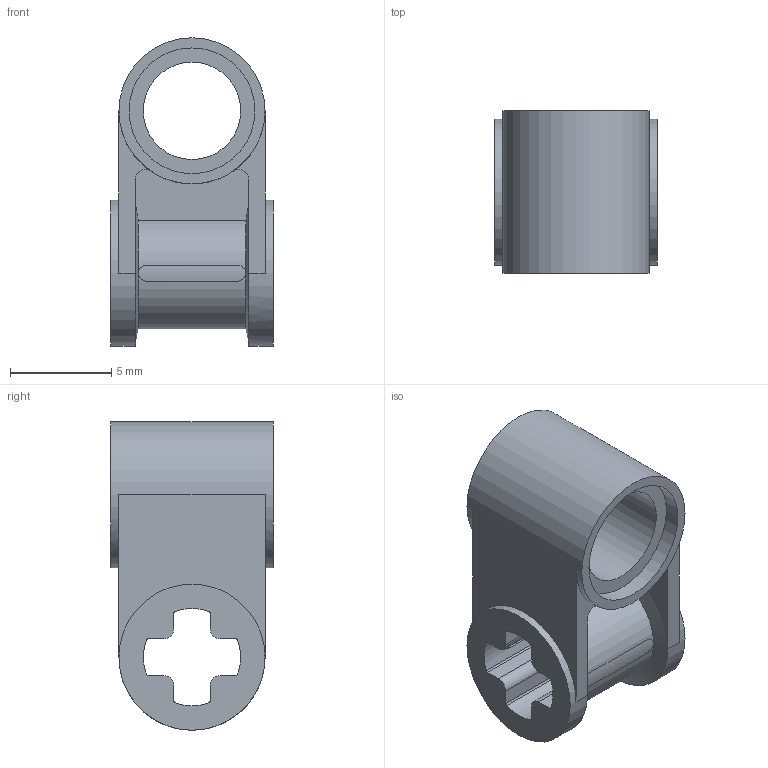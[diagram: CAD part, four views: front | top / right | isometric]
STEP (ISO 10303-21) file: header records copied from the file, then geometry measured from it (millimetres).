
FILE_DESCRIPTION(/* description */ ('Unknown'),/* implementation_level */ '2;1');
FILE_NAME(/* name */ 'ClGray_4211775_MCM',/* time_stamp */ '2025-07-21T23:53:03+02:00',/* author */ ('Unknown'),/* organization */ ('Unknown'),/* preprocessor_version */ 'ST-DEVELOPER v19.4',/* originating_system */ 'Solid Edge',/* authorisation */ 'Unknown');
FILE_SCHEMA (('AUTOMOTIVE_DESIGN {1 0 10303 214 3 1 1}'));
Length unit declared in the file: millimetre
Products named in the file (1): ClGray_4211775_MCM
Bounding box: 8 x 8 x 15.2 mm (x, y, z)
Volume: 346.6 mm3; surface area: 787.7 mm2
Topology: 1 solids, 1 shells, 65 faces, 173 edges, 113 vertices
Faces by surface type: cylinder 32, plane 31, cone 2
Full cylindrical faces by diameter (mm): 4.8 x1, 6.2 x2, 7.2 x3
Entity records: 2054 total; most frequent: CARTESIAN_POINT 402, DIRECTION 342, ORIENTED_EDGE 330, EDGE_CURVE 165, AXIS2_PLACEMENT_3D 128, VERTEX_POINT 112, LINE 86, VECTOR 86
